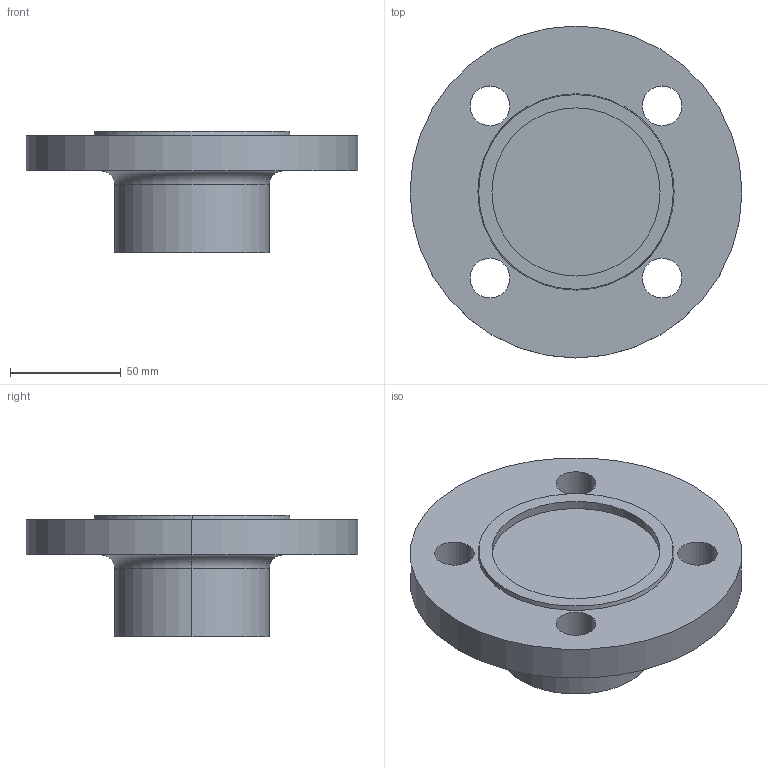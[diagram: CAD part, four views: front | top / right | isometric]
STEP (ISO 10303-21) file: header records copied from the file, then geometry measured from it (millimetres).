
FILE_DESCRIPTION (( 'STEP AP214' ), '1' );
FILE_NAME ('PN40 DN40 Type 21(i) - Type F Face.STEP', '2018-12-30T01:31:30', ( '' ), ( '' ), 'SwSTEP 2.0', 'SolidWorks 2019', '' );
FILE_SCHEMA (( 'AUTOMOTIVE_DESIGN' ));
Length unit declared in the file: millimetre
Products named in the file (1): PN40 DN40 Type 21(i) - Type F Face
Bounding box: 150 x 150 x 55 mm (x, y, z)
Volume: 404730.2 mm3; surface area: 53473.4 mm2
Topology: 1 solids, 1 shells, 23 faces, 52 edges, 34 vertices
Faces by surface type: cylinder 14, plane 5, torus 2, cone 2
Entity records: 716 total; most frequent: DIRECTION 136, CARTESIAN_POINT 110, ORIENTED_EDGE 104, AXIS2_PLACEMENT_3D 60, EDGE_CURVE 52, CIRCLE 36, EDGE_LOOP 34, VERTEX_POINT 34
